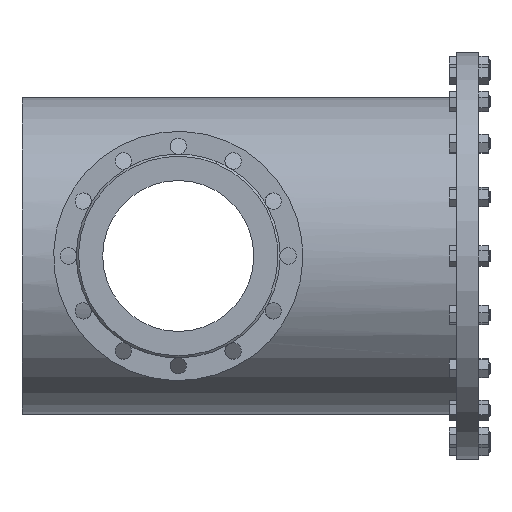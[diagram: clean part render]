
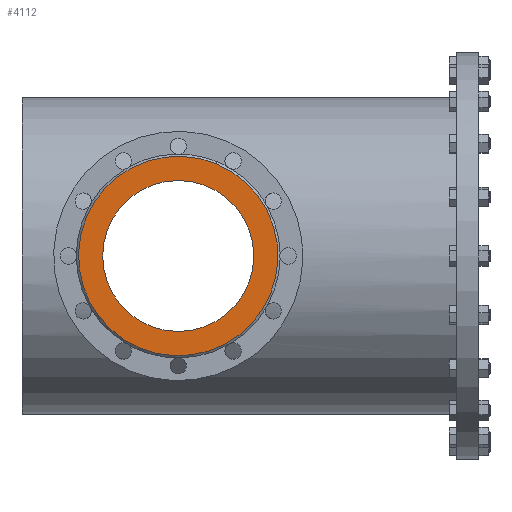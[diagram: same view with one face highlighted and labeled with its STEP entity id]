
A CAD part, left-side view. The second image highlights one B-rep face of the part: STEP entity #4112.
In plain terms, the highlighted planar face has unit normal (-1, 0, 0).
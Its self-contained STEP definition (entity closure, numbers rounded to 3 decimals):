
#1281 = DIRECTION ( 'NONE',  ( -1., 0., 0. ) ) ;
#1285 = ORIENTED_EDGE ( 'NONE', *, *, #1336, .T. ) ;
#1336 = EDGE_CURVE ( 'NONE', #13059, #13573, #14192, .T. ) ;
#2443 = DIRECTION ( 'NONE',  ( 1., 0., 0. ) ) ;
#2748 = DIRECTION ( 'NONE',  ( -1., 0., 0. ) ) ;
#2848 = CARTESIAN_POINT ( 'NONE',  ( -313., 380., 0. ) ) ;
#2978 = CARTESIAN_POINT ( 'NONE',  ( -313., 328.72, 123.8 ) ) ;
#2994 = FACE_OUTER_BOUND ( 'NONE', #15056, .T. ) ;
#3550 = AXIS2_PLACEMENT_3D ( 'NONE', #4170, #2748, #10630 ) ;
#3753 = ORIENTED_EDGE ( 'NONE', *, *, #8986, .T. ) ;
#3840 = CIRCLE ( 'NONE', #13380, 101.5 ) ;
#3915 = AXIS2_PLACEMENT_3D ( 'NONE', #13866, #2443, #7482 ) ;
#4112 = ADVANCED_FACE ( 'NONE', ( #5248, #2994 ), #9045, .T. ) ;
#4170 = CARTESIAN_POINT ( 'NONE',  ( -313., 380., 0. ) ) ;
#5239 = ORIENTED_EDGE ( 'NONE', *, *, #5384, .T. ) ;
#5248 = FACE_BOUND ( 'NONE', #16384, .T. ) ;
#5384 = EDGE_CURVE ( 'NONE', #15905, #15018, #13450, .T. ) ;
#6720 = DIRECTION ( 'NONE',  ( 1., 0., 0. ) ) ;
#6784 = CARTESIAN_POINT ( 'NONE',  ( -313., 380., 101.5 ) ) ;
#7477 = DIRECTION ( 'NONE',  ( 0., -0.383, 0.924 ) ) ;
#7482 = DIRECTION ( 'NONE',  ( 0., 0., 1. ) ) ;
#7653 = CARTESIAN_POINT ( 'NONE',  ( -313., 380., 0. ) ) ;
#7702 = CARTESIAN_POINT ( 'NONE',  ( -313., 380., 0. ) ) ;
#7732 = EDGE_CURVE ( 'NONE', #13573, #13059, #8232, .T. ) ;
#7792 = DIRECTION ( 'NONE',  ( 0., 0., 1. ) ) ;
#8232 = CIRCLE ( 'NONE', #16252, 134. ) ;
#8986 = EDGE_CURVE ( 'NONE', #15018, #15905, #3840, .T. ) ;
#9045 = PLANE ( 'NONE',  #9770 ) ;
#9770 = AXIS2_PLACEMENT_3D ( 'NONE', #7702, #14160, #7792 ) ;
#10315 = DIRECTION ( 'NONE',  ( 0., 0., 1. ) ) ;
#10630 = DIRECTION ( 'NONE',  ( 0., -0.383, 0.924 ) ) ;
#11035 = CARTESIAN_POINT ( 'NONE',  ( -313., 380., -101.5 ) ) ;
#13059 = VERTEX_POINT ( 'NONE', #2978 ) ;
#13219 = ORIENTED_EDGE ( 'NONE', *, *, #7732, .T. ) ;
#13380 = AXIS2_PLACEMENT_3D ( 'NONE', #2848, #6720, #10315 ) ;
#13450 = CIRCLE ( 'NONE', #3915, 101.5 ) ;
#13573 = VERTEX_POINT ( 'NONE', #13583 ) ;
#13583 = CARTESIAN_POINT ( 'NONE',  ( -313., 431.28, -123.8 ) ) ;
#13866 = CARTESIAN_POINT ( 'NONE',  ( -313., 380., 0. ) ) ;
#14160 = DIRECTION ( 'NONE',  ( -1., 0., 0. ) ) ;
#14192 = CIRCLE ( 'NONE', #3550, 134. ) ;
#15018 = VERTEX_POINT ( 'NONE', #6784 ) ;
#15056 = EDGE_LOOP ( 'NONE', ( #13219, #1285 ) ) ;
#15905 = VERTEX_POINT ( 'NONE', #11035 ) ;
#16252 = AXIS2_PLACEMENT_3D ( 'NONE', #7653, #1281, #7477 ) ;
#16384 = EDGE_LOOP ( 'NONE', ( #5239, #3753 ) ) ;
